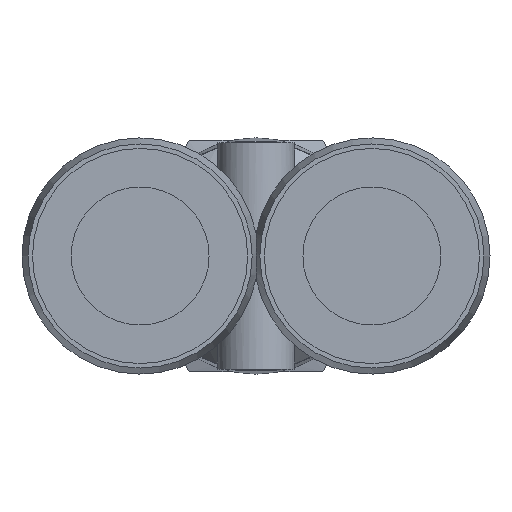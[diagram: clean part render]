
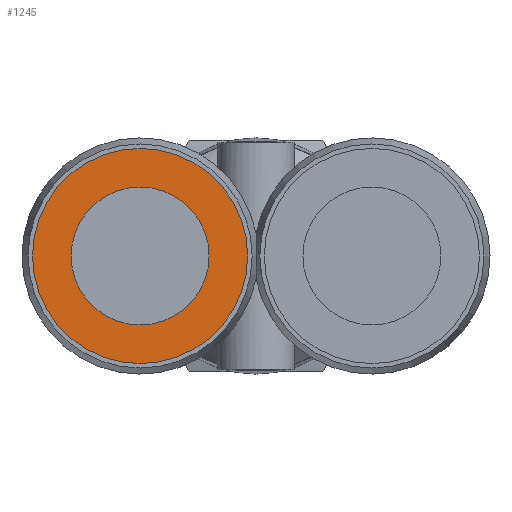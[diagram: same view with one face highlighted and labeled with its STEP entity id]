
A CAD part, front view. The second image highlights one B-rep face of the part: STEP entity #1245.
In plain terms, the highlighted planar face has unit normal (0, -1, 0).
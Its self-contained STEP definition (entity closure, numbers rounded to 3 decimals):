
#89=FACE_BOUND('',#232,.T.);
#110=PLANE('',#1385);
#153=FACE_OUTER_BOUND('',#231,.T.);
#231=EDGE_LOOP('',(#952,#953));
#232=EDGE_LOOP('',(#954,#955));
#391=CIRCLE('',#1326,6.25);
#392=CIRCLE('',#1327,6.25);
#424=CIRCLE('',#1381,9.75);
#427=CIRCLE('',#1384,9.75);
#492=VERTEX_POINT('',#1912);
#493=VERTEX_POINT('',#1913);
#540=VERTEX_POINT('',#2241);
#541=VERTEX_POINT('',#2242);
#621=EDGE_CURVE('',#492,#493,#391,.T.);
#622=EDGE_CURVE('',#493,#492,#392,.T.);
#695=EDGE_CURVE('',#540,#541,#424,.T.);
#699=EDGE_CURVE('',#541,#540,#427,.T.);
#952=ORIENTED_EDGE('',*,*,#695,.F.);
#953=ORIENTED_EDGE('',*,*,#699,.F.);
#954=ORIENTED_EDGE('',*,*,#621,.T.);
#955=ORIENTED_EDGE('',*,*,#622,.T.);
#1245=ADVANCED_FACE('',(#153,#89),#110,.F.);
#1326=AXIS2_PLACEMENT_3D('',#1914,#1516,#1517);
#1327=AXIS2_PLACEMENT_3D('',#1915,#1518,#1519);
#1381=AXIS2_PLACEMENT_3D('',#2243,#1649,#1650);
#1384=AXIS2_PLACEMENT_3D('',#2249,#1656,#1657);
#1385=AXIS2_PLACEMENT_3D('',#2250,#1658,#1659);
#1516=DIRECTION('center_axis',(0.,1.,0.));
#1517=DIRECTION('ref_axis',(1.,0.,0.));
#1518=DIRECTION('center_axis',(0.,1.,0.));
#1519=DIRECTION('ref_axis',(1.,0.,0.));
#1649=DIRECTION('center_axis',(0.,1.,0.));
#1650=DIRECTION('ref_axis',(-1.,0.,0.));
#1656=DIRECTION('center_axis',(0.,1.,0.));
#1657=DIRECTION('ref_axis',(-1.,0.,0.));
#1658=DIRECTION('center_axis',(0.,1.,0.));
#1659=DIRECTION('ref_axis',(0.,0.,-1.));
#1912=CARTESIAN_POINT('',(-4.25,-20.9,0.));
#1913=CARTESIAN_POINT('',(-16.75,-20.9,0.));
#1914=CARTESIAN_POINT('Origin',(-10.5,-20.9,0.));
#1915=CARTESIAN_POINT('Origin',(-10.5,-20.9,0.));
#2241=CARTESIAN_POINT('',(-20.25,-20.9,0.));
#2242=CARTESIAN_POINT('',(-0.75,-20.9,0.));
#2243=CARTESIAN_POINT('Origin',(-10.5,-20.9,0.));
#2249=CARTESIAN_POINT('Origin',(-10.5,-20.9,0.));
#2250=CARTESIAN_POINT('Origin',(-10.5,-20.9,0.));
